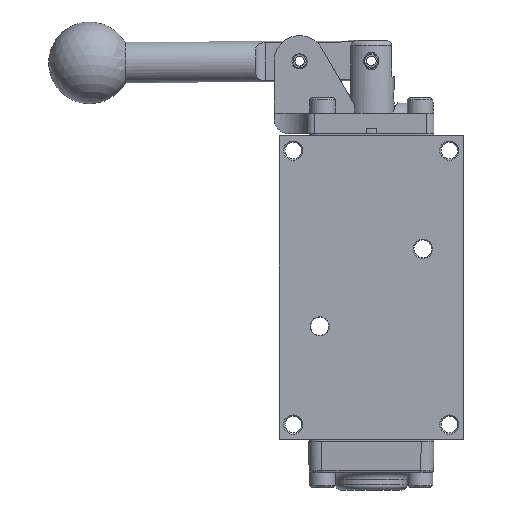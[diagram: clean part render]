
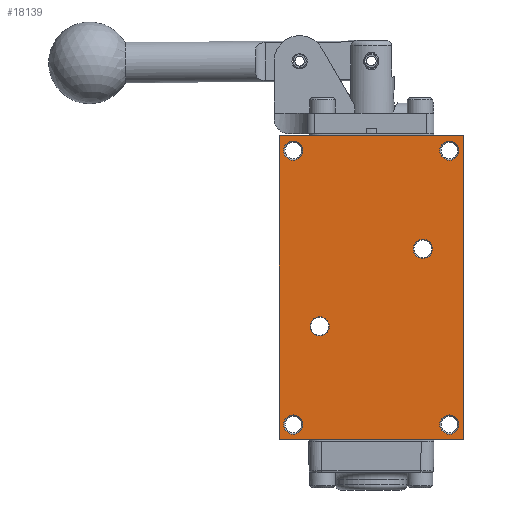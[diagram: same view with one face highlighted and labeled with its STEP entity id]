
A CAD part, front view. The second image highlights one B-rep face of the part: STEP entity #18139.
In plain terms, the highlighted planar face has unit normal (0, -1, 0).
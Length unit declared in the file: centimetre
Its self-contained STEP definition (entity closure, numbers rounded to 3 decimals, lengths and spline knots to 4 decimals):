
#770=FACE_BOUND('',#3671,.T.);
#771=FACE_BOUND('',#3672,.T.);
#772=FACE_BOUND('',#3673,.T.);
#773=FACE_BOUND('',#3674,.T.);
#774=FACE_BOUND('',#3675,.T.);
#775=FACE_BOUND('',#3676,.T.);
#1393=CIRCLE('',#19606,0.2977);
#1395=CIRCLE('',#19610,0.2977);
#1397=CIRCLE('',#19614,0.2977);
#1399=CIRCLE('',#19618,0.2977);
#1489=CIRCLE('',#19879,0.2977);
#1491=CIRCLE('',#19883,0.2977);
#2512=FACE_OUTER_BOUND('',#3670,.T.);
#3670=EDGE_LOOP('',(#15285,#15286,#15287,#15288));
#3671=EDGE_LOOP('',(#15289));
#3672=EDGE_LOOP('',(#15290));
#3673=EDGE_LOOP('',(#15291));
#3674=EDGE_LOOP('',(#15292));
#3675=EDGE_LOOP('',(#15293));
#3676=EDGE_LOOP('',(#15294));
#5049=LINE('',#31368,#6300);
#5139=LINE('',#32434,#6390);
#5382=LINE('',#33848,#6633);
#5383=LINE('',#33849,#6634);
#6300=VECTOR('',#23434,1.);
#6390=VECTOR('',#23984,1.);
#6633=VECTOR('',#24385,1.);
#6634=VECTOR('',#24386,1.);
#7817=VERTEX_POINT('',#31365);
#7818=VERTEX_POINT('',#31367);
#7859=VERTEX_POINT('',#31687);
#7861=VERTEX_POINT('',#31695);
#7863=VERTEX_POINT('',#31703);
#7865=VERTEX_POINT('',#31711);
#7969=VERTEX_POINT('',#32431);
#7970=VERTEX_POINT('',#32433);
#8191=VERTEX_POINT('',#33840);
#8193=VERTEX_POINT('',#33850);
#10009=EDGE_CURVE('',#7817,#7818,#5049,.T.);
#10066=EDGE_CURVE('',#7859,#7859,#1393,.T.);
#10070=EDGE_CURVE('',#7861,#7861,#1395,.T.);
#10074=EDGE_CURVE('',#7863,#7863,#1397,.T.);
#10078=EDGE_CURVE('',#7865,#7865,#1399,.T.);
#10256=EDGE_CURVE('',#7969,#7970,#5139,.T.);
#10590=EDGE_CURVE('',#8191,#8191,#1489,.T.);
#10594=EDGE_CURVE('',#7970,#7817,#5382,.T.);
#10595=EDGE_CURVE('',#7818,#7969,#5383,.T.);
#10596=EDGE_CURVE('',#8193,#8193,#1491,.T.);
#15285=ORIENTED_EDGE('',*,*,#10594,.F.);
#15286=ORIENTED_EDGE('',*,*,#10256,.F.);
#15287=ORIENTED_EDGE('',*,*,#10595,.F.);
#15288=ORIENTED_EDGE('',*,*,#10009,.F.);
#15289=ORIENTED_EDGE('',*,*,#10590,.F.);
#15290=ORIENTED_EDGE('',*,*,#10078,.T.);
#15291=ORIENTED_EDGE('',*,*,#10074,.T.);
#15292=ORIENTED_EDGE('',*,*,#10070,.T.);
#15293=ORIENTED_EDGE('',*,*,#10066,.T.);
#15294=ORIENTED_EDGE('',*,*,#10596,.F.);
#16234=PLANE('',#19882);
#18139=ADVANCED_FACE('',(#2512,#770,#771,#772,#773,#774,#775),#16234,.F.);
#19606=AXIS2_PLACEMENT_3D('',#31688,#23521,#23522);
#19610=AXIS2_PLACEMENT_3D('',#31696,#23531,#23532);
#19614=AXIS2_PLACEMENT_3D('',#31704,#23541,#23542);
#19618=AXIS2_PLACEMENT_3D('',#31712,#23551,#23552);
#19879=AXIS2_PLACEMENT_3D('',#33841,#24375,#24376);
#19882=AXIS2_PLACEMENT_3D('',#33847,#24383,#24384);
#19883=AXIS2_PLACEMENT_3D('',#33851,#24387,#24388);
#23434=DIRECTION('',(0.,0.,1.));
#23521=DIRECTION('center_axis',(0.,1.,0.));
#23522=DIRECTION('ref_axis',(1.,0.,0.));
#23531=DIRECTION('center_axis',(0.,1.,0.));
#23532=DIRECTION('ref_axis',(1.,0.,0.));
#23541=DIRECTION('center_axis',(0.,1.,0.));
#23542=DIRECTION('ref_axis',(1.,0.,0.));
#23551=DIRECTION('center_axis',(0.,1.,0.));
#23552=DIRECTION('ref_axis',(1.,0.,0.));
#23984=DIRECTION('',(0.,0.,-1.));
#24375=DIRECTION('center_axis',(0.,-1.,0.));
#24376=DIRECTION('ref_axis',(-1.,0.,0.));
#24383=DIRECTION('center_axis',(0.,1.,0.));
#24384=DIRECTION('ref_axis',(0.,0.,1.));
#24385=DIRECTION('',(-1.,0.,0.));
#24386=DIRECTION('',(1.,0.,0.));
#24387=DIRECTION('center_axis',(0.,-1.,0.));
#24388=DIRECTION('ref_axis',(-1.,0.,0.));
#31365=CARTESIAN_POINT('',(-2.8575,0.,-4.7104));
#31367=CARTESIAN_POINT('',(-2.8575,0.,4.7104));
#31368=CARTESIAN_POINT('',(-2.8575,0.,-4.7104));
#31687=CARTESIAN_POINT('',(-2.7183,0.,4.2456));
#31688=CARTESIAN_POINT('Origin',(-2.4206,0.,4.2456));
#31695=CARTESIAN_POINT('',(-2.7183,0.,-4.2482));
#31696=CARTESIAN_POINT('Origin',(-2.4206,0.,-4.2482));
#31703=CARTESIAN_POINT('',(2.123,0.,4.2456));
#31704=CARTESIAN_POINT('Origin',(2.4206,0.,4.2456));
#31711=CARTESIAN_POINT('',(2.123,0.,-4.2482));
#31712=CARTESIAN_POINT('Origin',(2.4206,0.,-4.2482));
#32431=CARTESIAN_POINT('',(2.8575,0.,4.7104));
#32433=CARTESIAN_POINT('',(2.8575,0.,-4.7104));
#32434=CARTESIAN_POINT('',(2.8575,0.,4.7104));
#33840=CARTESIAN_POINT('',(1.8979,0.,1.2002));
#33841=CARTESIAN_POINT('Origin',(1.6002,0.,1.2002));
#33847=CARTESIAN_POINT('Origin',(0.,0.,0.));
#33848=CARTESIAN_POINT('',(2.8575,0.,-4.7104));
#33849=CARTESIAN_POINT('',(-2.8575,0.,4.7104));
#33850=CARTESIAN_POINT('',(-1.3025,0.,-1.2027));
#33851=CARTESIAN_POINT('Origin',(-1.6002,0.,-1.2027));
